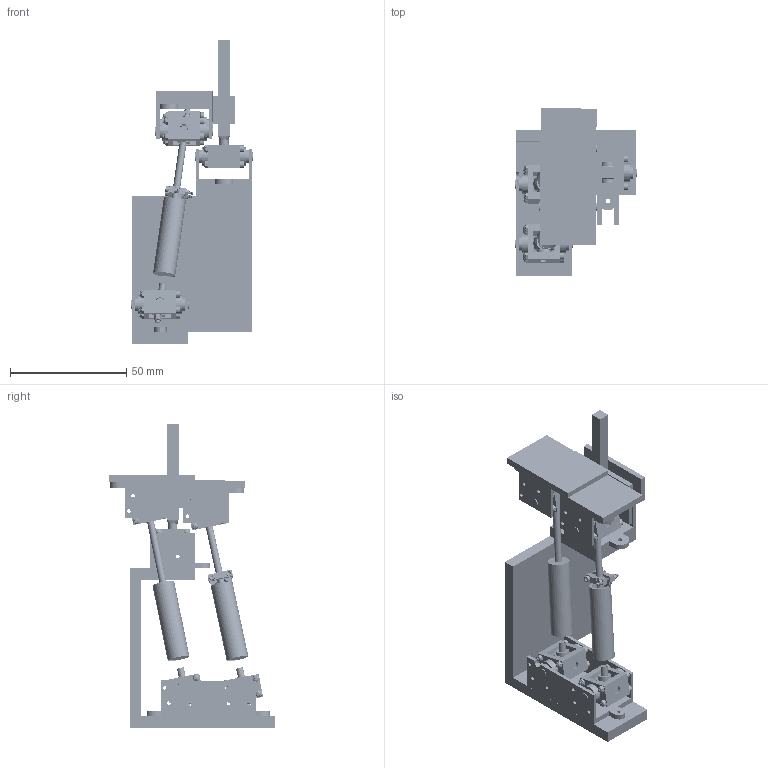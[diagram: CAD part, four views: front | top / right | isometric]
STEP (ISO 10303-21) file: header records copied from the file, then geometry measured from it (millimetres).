
FILE_DESCRIPTION(/* description */ (''),/* implementation_level */ '2;1');
FILE_NAME(/* name */ 'Neutral Position 0 deg adduction.step',/* time_stamp */ '2026-06-19T15:52:02-04:00',/* author */ (''),/* organization */ (''),/* preprocessor_version */ 'ST-DEVELOPER v20.1',/* originating_system */ 'Autodesk Translation Framework v15.8.0.0',/* authorisation */ '');
FILE_SCHEMA (('AUTOMOTIVE_DESIGN { 1 0 10303 214 3 1 1 }'));
Products named in the file (142): 2026-06-19-15-51-58-559; 2026-06-19-15-51-58-592; #283034; #283035; 2026-06-19-15-51-58-560; 2026-06-19-15-51-58-560_1; #283038; #283039; #283040; 2026-06-19-15-51-58-585; 2026-06-19-15-51-58-587; 2026-06-19-15-51-58-589; 2026-06-19-15-51-58-589_1; #283045; #283046; #283047; #283048; 2026-06-19-15-51-58-586_4; 2026-06-19-15-51-58-587_1; #283051; 2026-06-19-15-51-58-587_3; 2026-06-19-15-51-58-587_4; 2026-06-19-15-51-58-588; 2026-06-19-15-51-58-589_2; #283056; #283057; #283058; #283059; #283060; #283061; #283062; #283063; 2026-06-19-15-51-58-570; 2026-06-19-15-51-58-572; 2026-06-19-15-51-58-574; 2026-06-19-15-51-58-575_1; #283068; #283069; #283070; #283071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
Assembly tree (149 placements, depth 7):
  2026-06-19-15-51-58-559
    2026-06-19-15-51-58-592
      #283034
      #283035
      2026-06-19-15-51-58-560
        2026-06-19-15-51-58-560_1
          #283038
            #283039
            #283040
              2026-06-19-15-51-58-585
              2026-06-19-15-51-58-587
              2026-06-19-15-51-58-589
              2026-06-19-15-51-58-589_1
              #283045
              #283046
              #283047
              #283048
              2026-06-19-15-51-58-586_4
              2026-06-19-15-51-58-587_1
              #283051
              2026-06-19-15-51-58-587_3
              2026-06-19-15-51-58-587_4
              2026-06-19-15-51-58-588
              2026-06-19-15-51-58-589_2
              #283056
            #283057
              #283058
              #283059
              #283060
          #283061
            #283062
            #283063
              2026-06-19-15-51-58-570
              2026-06-19-15-51-58-572
              2026-06-19-15-51-58-574
              2026-06-19-15-51-58-575_1
              #283068
              #283069
              #283070
              #283071
              2026-06-19-15-51-58-570_2
              2026-06-19-15-51-58-573
              #283074
              2026-06-19-15-51-58-571_3
              2026-06-19-15-51-58-569
              2026-06-19-15-51-58-570_3
              2026-06-19-15-51-58-574_1
              #283079
            #283080
              #283081
              #283082
              #283083
        2026-06-19-15-51-58-560_7
      2026-06-19-15-51-58-592_1
    #283086
      2026-06-19-15-51-58-603_1
        #283088
      2026-06-19-15-51-58-603_2
      2026-06-19-15-51-58-603_3
        2026-06-19-15-51-58-601
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Bounding box: 52.29 x 71.76 x 130.55 mm (x, y, z)
Volume: 57531.3 mm3; surface area: 54056.2 mm2
Topology: 119 solids, 123 shells, 4759 faces, 12173 edges, 7839 vertices
Faces by surface type: cylinder 2564, plane 960, cone 577, bspline 519, torus 139
Full cylindrical faces by diameter (mm): 0.971 x6, 1.002 x66, 1.021 x20, 1.145 x880, 1.257 x10, 1.379 x40, 1.4 x66, 1.545 x20, 1.586 x2, 1.6 x916, 1.72 x2, 1.907 x20, 1.926 x54, 1.97 x4, 2 x5, 2.2 x2, 2.625 x2, 2.66 x1, 2.722 x2, 3 x78, 3.6 x52, 4 x1, 4.979 x2, 5.8 x34, 6.932 x4, 8 x10, 9.5 x5
Entity records: 280678 total; most frequent: CARTESIAN_POINT 189001, ORIENTED_EDGE 21022, DIRECTION 15183, EDGE_CURVE 10523, VERTEX_POINT 6763, AXIS2_PLACEMENT_3D 5963, EDGE_LOOP 4566, FACE_OUTER_BOUND 4151
